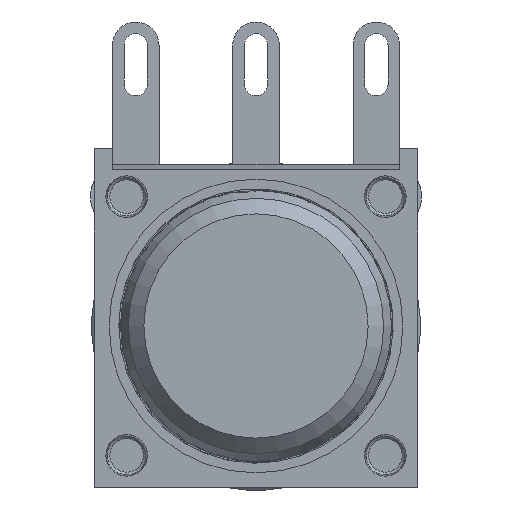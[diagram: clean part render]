
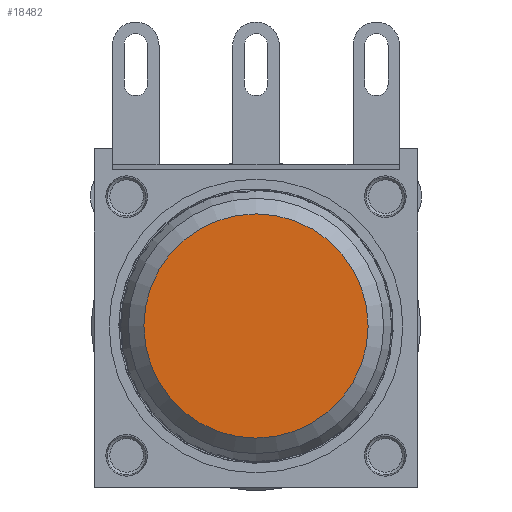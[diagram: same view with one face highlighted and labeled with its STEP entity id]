
A CAD part, left-side view. The second image highlights one B-rep face of the part: STEP entity #18482.
In plain terms, the highlighted planar face has unit normal (-1, 0, 0).
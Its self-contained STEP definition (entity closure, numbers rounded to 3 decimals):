
#397=CIRCLE('',#26842,4.334);
#4044=PLANE('',#26843);
#5569=ORIENTED_EDGE('',*,*,#10689,.T.);
#10689=EDGE_CURVE('',#13304,#13304,#397,.T.);
#13304=VERTEX_POINT('',#36367);
#15418=EDGE_LOOP('',(#5569));
#16809=FACE_BOUND('',#15418,.T.);
#18482=ADVANCED_FACE('',(#16809),#4044,.T.);
#26842=AXIS2_PLACEMENT_3D('',#36366,#29343,#29344);
#26843=AXIS2_PLACEMENT_3D('',#36368,#29345,#29346);
#29343=DIRECTION('',(-1.,0.,0.));
#29344=DIRECTION('',(0.,0.172,0.985));
#29345=DIRECTION('',(-1.,0.,0.));
#29346=DIRECTION('',(0.,0.172,0.985));
#36366=CARTESIAN_POINT('',(-38.204,0.,0.));
#36367=CARTESIAN_POINT('',(-38.204,0.746,4.269));
#36368=CARTESIAN_POINT('',(-38.204,0.,0.));
